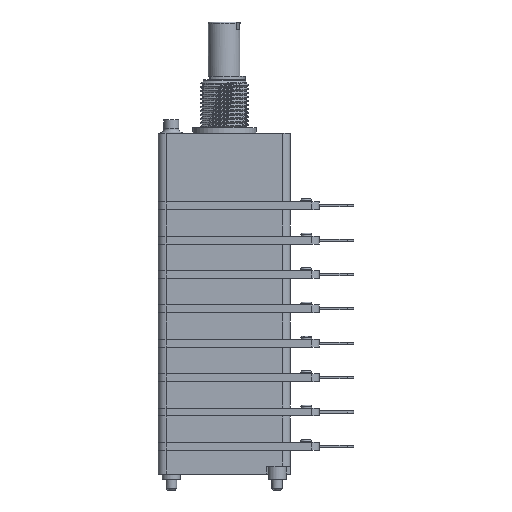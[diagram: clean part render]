
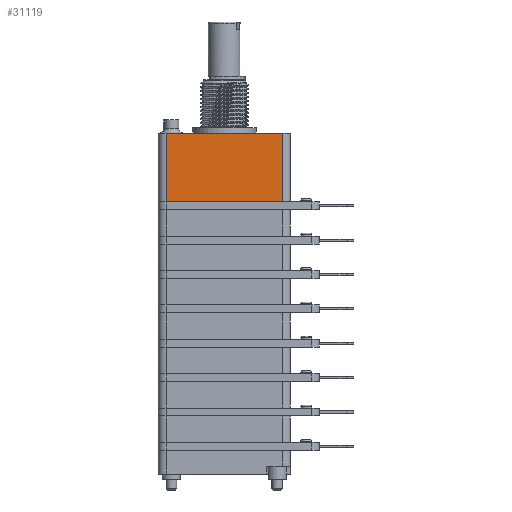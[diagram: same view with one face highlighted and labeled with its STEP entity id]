
A CAD part, left-side view. The second image highlights one B-rep face of the part: STEP entity #31119.
In plain terms, the highlighted planar face has unit normal (-1, 0, 0).
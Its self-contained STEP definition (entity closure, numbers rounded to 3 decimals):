
#27473 = PLANE('',#27474);
#27474 = AXIS2_PLACEMENT_3D('',#27475,#27476,#27477);
#27475 = CARTESIAN_POINT('',(-12.5,-18.,-15.5));
#27476 = DIRECTION('',(1.,0.,0.));
#27477 = DIRECTION('',(0.,0.,1.));
#29194 = VERTEX_POINT('',#29195);
#29195 = CARTESIAN_POINT('',(-12.5,-11.,-14.));
#29362 = CYLINDRICAL_SURFACE('',#29363,1.5);
#29363 = AXIS2_PLACEMENT_3D('',#29364,#29365,#29366);
#29364 = CARTESIAN_POINT('',(-11.,-11.,-14.));
#29365 = DIRECTION('',(0.,0.,1.));
#29366 = DIRECTION('',(-1.,0.,0.));
#29500 = PLANE('',#29501);
#29501 = AXIS2_PLACEMENT_3D('',#29502,#29503,#29504);
#29502 = CARTESIAN_POINT('',(-12.5,-12.5,-1.));
#29503 = DIRECTION('',(0.,0.,1.));
#29504 = DIRECTION('',(1.,0.,0.));
#29642 = VERTEX_POINT('',#29643);
#29643 = CARTESIAN_POINT('',(-12.5,11.,-14.));
#29657 = CYLINDRICAL_SURFACE('',#29658,1.5);
#29658 = AXIS2_PLACEMENT_3D('',#29659,#29660,#29661);
#29659 = CARTESIAN_POINT('',(-11.,11.,-14.));
#29660 = DIRECTION('',(0.,0.,1.));
#29661 = DIRECTION('',(-1.,0.,0.));
#29767 = EDGE_CURVE('',#29194,#29642,#29768,.T.);
#29768 = SURFACE_CURVE('',#29769,(#29773,#29780),.PCURVE_S1.);
#29769 = LINE('',#29770,#29771);
#29770 = CARTESIAN_POINT('',(-12.5,-12.5,-14.));
#29771 = VECTOR('',#29772,1.);
#29772 = DIRECTION('',(0.,1.,0.));
#29773 = PCURVE('',#27473,#29774);
#29774 = DEFINITIONAL_REPRESENTATION('',(#29775),#29779);
#29775 = LINE('',#29776,#29777);
#29776 = CARTESIAN_POINT('',(1.5,-5.5));
#29777 = VECTOR('',#29778,1.);
#29778 = DIRECTION('',(0.,-1.));
#29779 = ( GEOMETRIC_REPRESENTATION_CONTEXT(2) 
PARAMETRIC_REPRESENTATION_CONTEXT() REPRESENTATION_CONTEXT('2D SPACE',''
  ) );
#29780 = PCURVE('',#29781,#29786);
#29781 = PLANE('',#29782);
#29782 = AXIS2_PLACEMENT_3D('',#29783,#29784,#29785);
#29783 = CARTESIAN_POINT('',(-12.5,-12.5,-14.));
#29784 = DIRECTION('',(1.,0.,0.));
#29785 = DIRECTION('',(0.,0.,1.));
#29786 = DEFINITIONAL_REPRESENTATION('',(#29787),#29791);
#29787 = LINE('',#29788,#29789);
#29788 = CARTESIAN_POINT('',(0.,0.));
#29789 = VECTOR('',#29790,1.);
#29790 = DIRECTION('',(0.,-1.));
#29791 = ( GEOMETRIC_REPRESENTATION_CONTEXT(2) 
PARAMETRIC_REPRESENTATION_CONTEXT() REPRESENTATION_CONTEXT('2D SPACE',''
  ) );
#30617 = VERTEX_POINT('',#30618);
#30618 = CARTESIAN_POINT('',(-12.5,-11.,-1.));
#30640 = EDGE_CURVE('',#29194,#30617,#30641,.T.);
#30641 = SURFACE_CURVE('',#30642,(#30646,#30653),.PCURVE_S1.);
#30642 = LINE('',#30643,#30644);
#30643 = CARTESIAN_POINT('',(-12.5,-11.,-14.));
#30644 = VECTOR('',#30645,1.);
#30645 = DIRECTION('',(0.,0.,1.));
#30646 = PCURVE('',#29362,#30647);
#30647 = DEFINITIONAL_REPRESENTATION('',(#30648),#30652);
#30648 = LINE('',#30649,#30650);
#30649 = CARTESIAN_POINT('',(0.,0.));
#30650 = VECTOR('',#30651,1.);
#30651 = DIRECTION('',(0.,1.));
#30652 = ( GEOMETRIC_REPRESENTATION_CONTEXT(2) 
PARAMETRIC_REPRESENTATION_CONTEXT() REPRESENTATION_CONTEXT('2D SPACE',''
  ) );
#30653 = PCURVE('',#29781,#30654);
#30654 = DEFINITIONAL_REPRESENTATION('',(#30655),#30659);
#30655 = LINE('',#30656,#30657);
#30656 = CARTESIAN_POINT('',(0.,-1.5));
#30657 = VECTOR('',#30658,1.);
#30658 = DIRECTION('',(1.,0.));
#30659 = ( GEOMETRIC_REPRESENTATION_CONTEXT(2) 
PARAMETRIC_REPRESENTATION_CONTEXT() REPRESENTATION_CONTEXT('2D SPACE',''
  ) );
#30906 = EDGE_CURVE('',#30617,#30907,#30909,.T.);
#30907 = VERTEX_POINT('',#30908);
#30908 = CARTESIAN_POINT('',(-12.5,11.,-1.));
#30909 = SURFACE_CURVE('',#30910,(#30914,#30921),.PCURVE_S1.);
#30910 = LINE('',#30911,#30912);
#30911 = CARTESIAN_POINT('',(-12.5,-12.5,-1.));
#30912 = VECTOR('',#30913,1.);
#30913 = DIRECTION('',(0.,1.,0.));
#30914 = PCURVE('',#29500,#30915);
#30915 = DEFINITIONAL_REPRESENTATION('',(#30916),#30920);
#30916 = LINE('',#30917,#30918);
#30917 = CARTESIAN_POINT('',(0.,0.));
#30918 = VECTOR('',#30919,1.);
#30919 = DIRECTION('',(0.,1.));
#30920 = ( GEOMETRIC_REPRESENTATION_CONTEXT(2) 
PARAMETRIC_REPRESENTATION_CONTEXT() REPRESENTATION_CONTEXT('2D SPACE',''
  ) );
#30921 = PCURVE('',#29781,#30922);
#30922 = DEFINITIONAL_REPRESENTATION('',(#30923),#30927);
#30923 = LINE('',#30924,#30925);
#30924 = CARTESIAN_POINT('',(13.,0.));
#30925 = VECTOR('',#30926,1.);
#30926 = DIRECTION('',(0.,-1.));
#30927 = ( GEOMETRIC_REPRESENTATION_CONTEXT(2) 
PARAMETRIC_REPRESENTATION_CONTEXT() REPRESENTATION_CONTEXT('2D SPACE',''
  ) );
#31099 = EDGE_CURVE('',#29642,#30907,#31100,.T.);
#31100 = SURFACE_CURVE('',#31101,(#31105,#31112),.PCURVE_S1.);
#31101 = LINE('',#31102,#31103);
#31102 = CARTESIAN_POINT('',(-12.5,11.,-14.));
#31103 = VECTOR('',#31104,1.);
#31104 = DIRECTION('',(0.,0.,1.));
#31105 = PCURVE('',#29657,#31106);
#31106 = DEFINITIONAL_REPRESENTATION('',(#31107),#31111);
#31107 = LINE('',#31108,#31109);
#31108 = CARTESIAN_POINT('',(-0.,0.));
#31109 = VECTOR('',#31110,1.);
#31110 = DIRECTION('',(-0.,1.));
#31111 = ( GEOMETRIC_REPRESENTATION_CONTEXT(2) 
PARAMETRIC_REPRESENTATION_CONTEXT() REPRESENTATION_CONTEXT('2D SPACE',''
  ) );
#31112 = PCURVE('',#29781,#31113);
#31113 = DEFINITIONAL_REPRESENTATION('',(#31114),#31118);
#31114 = LINE('',#31115,#31116);
#31115 = CARTESIAN_POINT('',(0.,-23.5));
#31116 = VECTOR('',#31117,1.);
#31117 = DIRECTION('',(1.,0.));
#31118 = ( GEOMETRIC_REPRESENTATION_CONTEXT(2) 
PARAMETRIC_REPRESENTATION_CONTEXT() REPRESENTATION_CONTEXT('2D SPACE',''
  ) );
#31119 = ADVANCED_FACE('',(#31120),#29781,.F.);
#31120 = FACE_BOUND('',#31121,.F.);
#31121 = EDGE_LOOP('',(#31122,#31123,#31124,#31125));
#31122 = ORIENTED_EDGE('',*,*,#30906,.F.);
#31123 = ORIENTED_EDGE('',*,*,#30640,.F.);
#31124 = ORIENTED_EDGE('',*,*,#29767,.T.);
#31125 = ORIENTED_EDGE('',*,*,#31099,.T.);
